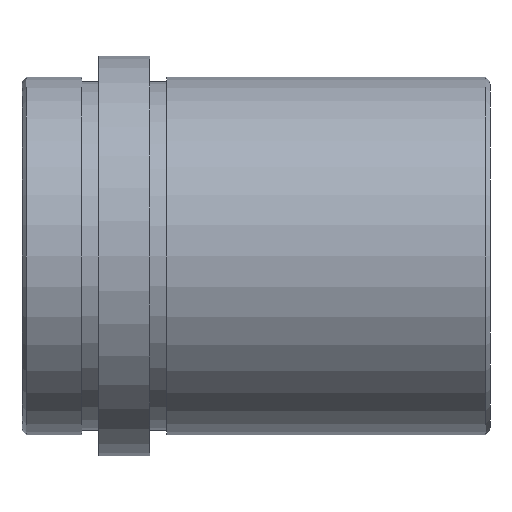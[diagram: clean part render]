
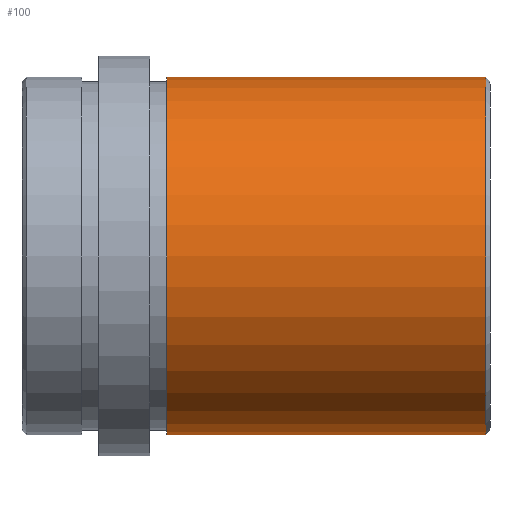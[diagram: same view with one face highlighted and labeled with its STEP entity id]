
A CAD part, front view. The second image highlights one B-rep face of the part: STEP entity #100.
In plain terms, the highlighted face is a revolution surface.
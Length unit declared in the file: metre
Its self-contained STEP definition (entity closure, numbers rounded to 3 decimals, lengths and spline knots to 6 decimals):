
#100 = ADVANCED_FACE( '', ( #157 ), #158, .F. );
#157 = FACE_OUTER_BOUND( '', #250, .T. );
#158 = SURFACE_OF_REVOLUTION( '', #251, #252 );
#250 = EDGE_LOOP( '', ( #419, #420, #421, #422 ) );
#251 = B_SPLINE_CURVE_WITH_KNOTS( '', 1, ( #423, #424 ), .UNSPECIFIED., .F., .F., ( 2, 2 ), ( -10000., 10000. ), .UNSPECIFIED. );
#252 = AXIS1_PLACEMENT( '', #425, #426 );
#419 = ORIENTED_EDGE( '', *, *, #492, .T. );
#420 = ORIENTED_EDGE( '', *, *, #490, .T. );
#421 = ORIENTED_EDGE( '', *, *, #445, .F. );
#422 = ORIENTED_EDGE( '', *, *, #489, .T. );
#423 = CARTESIAN_POINT( '', ( 10000.0545, 0., 0.021 ) );
#424 = CARTESIAN_POINT( '', ( -9999.9455, 0., 0.021 ) );
#425 = CARTESIAN_POINT( '', ( 0., 0., 0. ) );
#426 = DIRECTION( '', ( 1., 0., 0. ) );
#445 = EDGE_CURVE( '', #499, #500, #501, .T. );
#489 = EDGE_CURVE( '', #499, #571, #572, .F. );
#490 = EDGE_CURVE( '', #573, #500, #574, .T. );
#492 = EDGE_CURVE( '', #571, #573, #576, .T. );
#499 = VERTEX_POINT( '', #583 );
#500 = VERTEX_POINT( '', #584 );
#501 = CIRCLE( '', #585, 0.021 );
#571 = VERTEX_POINT( '', #671 );
#572 = LINE( '', #672, #673 );
#573 = VERTEX_POINT( '', #674 );
#574 = LINE( '', #675, #676 );
#576 = CIRCLE( '', #678, 0.021 );
#583 = CARTESIAN_POINT( '', ( 0.017, 0., -0.021 ) );
#584 = CARTESIAN_POINT( '', ( 0.017, 0., 0.021 ) );
#585 = AXIS2_PLACEMENT_3D( '', #689, #690, #691 );
#671 = CARTESIAN_POINT( '', ( 0.0545, 0., -0.021 ) );
#672 = CARTESIAN_POINT( '', ( 0.0545, 0., -0.021 ) );
#673 = VECTOR( '', #789, 1. );
#674 = CARTESIAN_POINT( '', ( 0.0545, 0., 0.021 ) );
#675 = CARTESIAN_POINT( '', ( 0.0545, 0., 0.021 ) );
#676 = VECTOR( '', #790, 1. );
#678 = AXIS2_PLACEMENT_3D( '', #794, #795, #796 );
#689 = CARTESIAN_POINT( '', ( 0.017, 0., 0. ) );
#690 = DIRECTION( '', ( -1., 0., 0. ) );
#691 = DIRECTION( '', ( 0., 0., 1. ) );
#789 = DIRECTION( '', ( -1., 0., 0. ) );
#790 = DIRECTION( '', ( -1., 0., 0. ) );
#794 = CARTESIAN_POINT( '', ( 0.0545, 0., 0. ) );
#795 = DIRECTION( '', ( -1., 0., 0. ) );
#796 = DIRECTION( '', ( 0., 0., 1. ) );
